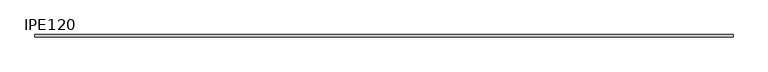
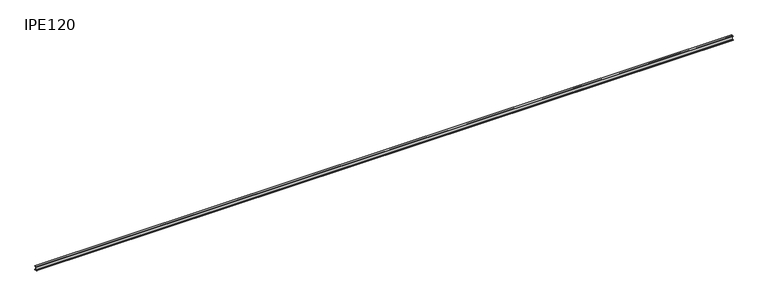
"""IFC4 building model written with IfcOpenShell, lengths in millimetres: beam geometry, IPE-Balken : IPE120."""

from ifc_helpers import new_model, si_unit, point, frame, frame_2d, origin, place, context, project, spatial, polyline, circle_curve, trimmed, segment, composite_curve, outline, extrude, source, transform, mapped, element, save


def ipe120_4a8aa1c4(model_context):
    return source(origin(), model_context, "Body", "SweptSolid", [
        extrude(outline(composite_curve([segment(polyline([(32.0, -53.7), (32.0, -60.0), (-32.0, -60.0), (-32.0, -53.7), (-9.2, -53.7)]), True, "CONTINUOUS"), segment(trimmed(circle_curve(frame_2d((-9.2, -46.7)), 7.0), [point((-9.2, -53.7))], [point((-2.2, -46.7))], True, "CARTESIAN"), True, "CONTINUOUS"), segment(polyline([(-2.2, -46.7), (-2.2, 46.7)]), True, "CONTINUOUS"), segment(trimmed(circle_curve(frame_2d((-9.2, 46.7)), 7.0), [point((-2.2, 46.7))], [point((-9.2, 53.7))], True, "CARTESIAN"), True, "CONTINUOUS"), segment(polyline([(-9.2, 53.7), (-32.0, 53.7), (-32.0, 60.0), (32.0, 60.0), (32.0, 53.7), (9.2, 53.7)]), True, "CONTINUOUS"), segment(trimmed(circle_curve(frame_2d((9.2, 46.7)), 7.0), [point((9.2, 53.7))], [point((2.2, 46.7))], True, "CARTESIAN"), True, "CONTINUOUS"), segment(polyline([(2.2, 46.7), (2.2, -46.7)]), True, "CONTINUOUS"), segment(trimmed(circle_curve(frame_2d((9.2, -46.7)), 7.0), [point((2.2, -46.7))], [point((9.2, -53.7))], True, "CARTESIAN"), True, "CONTINUOUS"), segment(polyline([(9.2, -53.7), (32.0, -53.7)]), True, "CONTINUOUS")], self_intersect=False)), frame((-10012.7, 0.0, 0.0), z_axis=(1.0, 0.0, 0.0), x_axis=(0.0, 1.0, 0.0)), (0.0, 0.0, 1.0), 20025.4),
    ])


if __name__ == "__main__":
    model = new_model("IFC4")
    model_context = context("Model", 3, world=origin())
    ifc_project = project(units=[si_unit("LENGTHUNIT", "METRE", prefix="MILLI")], contexts=[model_context])
    site = spatial("IfcSite", under=ifc_project)
    building = spatial("IfcBuilding", under=site)
    placement = place(None, origin())
    ipe120_shape = ipe120_4a8aa1c4(model_context)
    element("IfcBeam", 1, ObjectType="IPE-Balken : IPE120", at=placement, inside=building, context=model_context, shape_type="MappedRepresentation", body=[
        mapped(ipe120_shape, transform((0.0, 0.0, 0.0), x_axis=(1.0, 0.0, 0.0), y_axis=(0.0, 1.0, 0.0), z_axis=(0.0, 0.0, 1.0))),
    ])
    save(model, "model.ifc")
